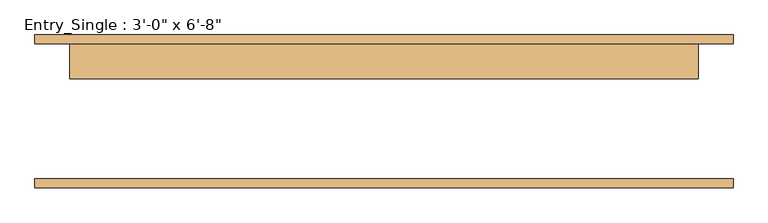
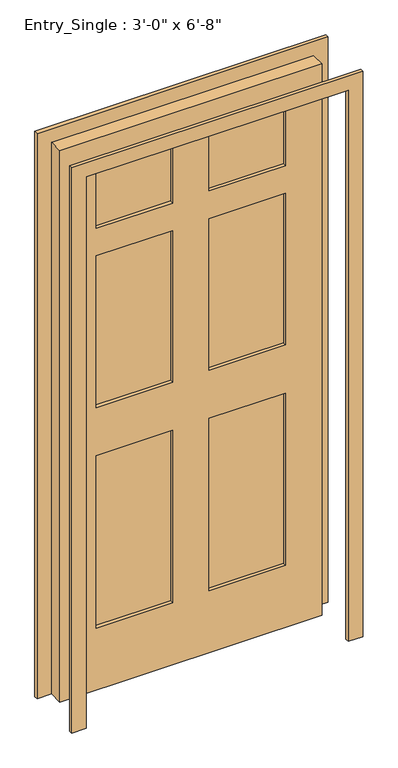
"""IFC4 building model written with IfcOpenShell, lengths in millimetres: door geometry."""

from ifc_helpers import new_model, si_unit, frame, origin, place, context, project, spatial, polyline, outline, extrude, source, transform, mapped, element, save


def door_5892309e(model_context):
    return source(origin(), model_context, "Body", "SweptSolid", [
        extrude(outline(polyline([(0.0, -508.0), (0.0, -457.2), (2032.0, -457.2), (2032.0, 457.2), (0.0, 457.2), (0.0, 508.0), (2082.8, 508.0), (2082.8, -508.0), (0.0, -508.0)])), frame((0.0, -111.125, 0.0), z_axis=(0.0, 1.0, 0.0), x_axis=(0.0, 0.0, 1.0)), (0.0, 0.0, 1.0), 12.7),
        extrude(outline(polyline([(0.0, 508.0), (2082.8, 508.0), (2082.8, -508.0), (0.0, -508.0), (0.0, -457.2), (2032.0, -457.2), (2032.0, 457.2), (0.0, 457.2), (0.0, 508.0)])), frame((0.0, 98.425, 0.0), z_axis=(0.0, 1.0, 0.0), x_axis=(0.0, 0.0, 1.0)), (0.0, 0.0, 1.0), 12.7),
        extrude(outline(polyline([(-63.5, 60.325), (-330.2, 60.325), (-330.2, 85.725), (-63.5, 85.725), (-63.5, 60.325)])), frame((0.0, 0.0, 1701.8), z_axis=(0.0, 0.0, 1.0), x_axis=(1.0, 0.0, 0.0)), (0.0, 0.0, 1.0), 228.6),
        extrude(outline(polyline([(330.2, 60.325), (63.5, 60.325), (63.5, 85.725), (330.2, 85.725), (330.2, 60.325)])), frame((0.0, 0.0, 1701.8), z_axis=(0.0, 0.0, 1.0), x_axis=(1.0, 0.0, 0.0)), (0.0, 0.0, 1.0), 228.6),
        extrude(outline(polyline([(-63.5, 60.325), (-330.2, 60.325), (-330.2, 85.725), (-63.5, 85.725), (-63.5, 60.325)])), frame((0.0, 0.0, 1041.4), z_axis=(0.0, 0.0, 1.0), x_axis=(1.0, 0.0, 0.0)), (0.0, 0.0, 1.0), 558.8),
        extrude(outline(polyline([(330.2, 60.325), (63.5, 60.325), (63.5, 85.725), (330.2, 85.725), (330.2, 60.325)])), frame((0.0, 0.0, 1041.4), z_axis=(0.0, 0.0, 1.0), x_axis=(1.0, 0.0, 0.0)), (0.0, 0.0, 1.0), 558.8),
        extrude(outline(polyline([(-63.5, 60.325), (-330.2, 60.325), (-330.2, 85.725), (-63.5, 85.725), (-63.5, 60.325)])), frame((0.0, 0.0, 228.6), z_axis=(0.0, 0.0, 1.0), x_axis=(1.0, 0.0, 0.0)), (0.0, 0.0, 1.0), 635.0),
        extrude(outline(polyline([(330.2, 60.325), (63.5, 60.325), (63.5, 85.725), (330.2, 85.725), (330.2, 60.325)])), frame((0.0, 0.0, 228.6), z_axis=(0.0, 0.0, 1.0), x_axis=(1.0, 0.0, 0.0)), (0.0, 0.0, 1.0), 635.0),
        extrude(outline(polyline([(2032.0, 457.2), (2032.0, -457.2), (0.0, -457.2), (0.0, 457.2), (2032.0, 457.2)]), holes=[polyline([(1930.4, -63.5), (1701.8, -63.5), (1701.8, -330.2), (1930.4, -330.2), (1930.4, -63.5)]), polyline([(1930.4, 330.2), (1701.8, 330.2), (1701.8, 63.5), (1930.4, 63.5), (1930.4, 330.2)]), polyline([(1600.2, -63.5), (1041.4, -63.5), (1041.4, -330.2), (1600.2, -330.2), (1600.2, -63.5)]), polyline([(1600.2, 330.2), (1041.4, 330.2), (1041.4, 63.5), (1600.2, 63.5), (1600.2, 330.2)]), polyline([(863.6, -63.5), (228.6, -63.5), (228.6, -330.2), (863.6, -330.2), (863.6, -63.5)]), polyline([(863.6, 330.2), (228.6, 330.2), (228.6, 63.5), (863.6, 63.5), (863.6, 330.2)])]), frame((0.0, 47.625, 0.0), z_axis=(0.0, 1.0, 0.0), x_axis=(0.0, 0.0, 1.0)), (0.0, 0.0, 1.0), 50.8),
    ])


if __name__ == "__main__":
    model = new_model("IFC4")
    model_context = context("Model", 3, world=origin())
    ifc_project = project(units=[si_unit("LENGTHUNIT", "METRE", prefix="MILLI")], contexts=[model_context])
    site = spatial("IfcSite", under=ifc_project)
    building = spatial("IfcBuilding", under=site)
    placement = place(None, origin())
    door_shape = door_5892309e(model_context)
    element("IfcDoor", 1, ObjectType="Entry_Single : 3'-0\" x 6'-8\"", at=placement, inside=building, context=model_context, shape_type="MappedRepresentation", body=[
        mapped(door_shape, transform((0.0, 0.0, 0.0), x_axis=(1.0, 0.0, 0.0), y_axis=(0.0, 1.0, 0.0), z_axis=(0.0, 0.0, 1.0))),
    ])
    save(model, "model.ifc")
